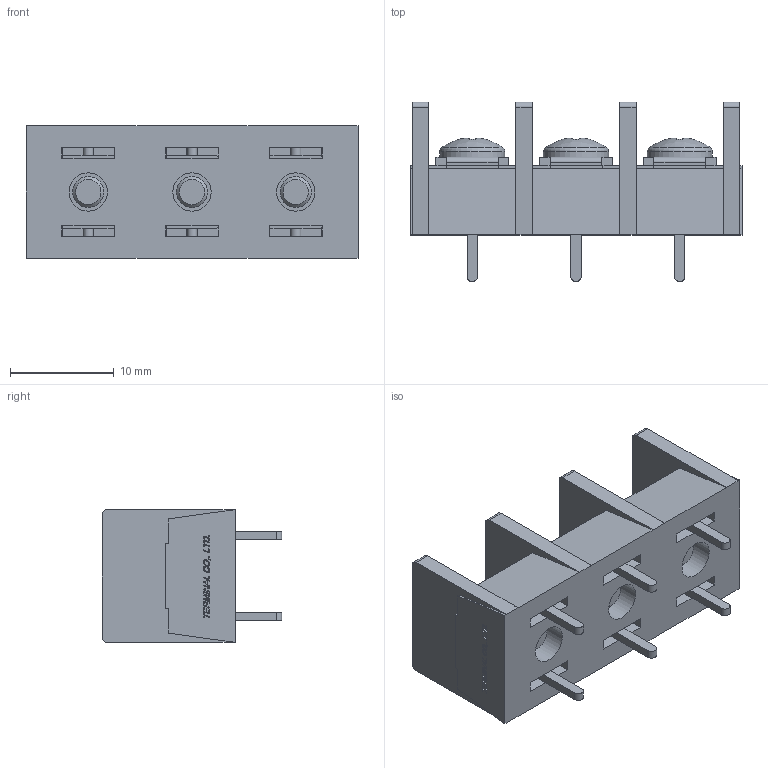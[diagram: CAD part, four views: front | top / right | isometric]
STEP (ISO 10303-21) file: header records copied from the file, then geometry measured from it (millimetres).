
FILE_DESCRIPTION(/* description */ ('Alibre Inc.'),/* implementation_level */ '2;1');
FILE_NAME(/* name */ 'export0',/* time_stamp */ '2015-10-23T18:00:31+09:00',/* author */ (''),/* organization */ (''),/* preprocessor_version */ 'ST-DEVELOPER v14',/* originating_system */ 'Alibre',/* authorisation */ '');
FILE_SCHEMA (('CONFIG_CONTROL_DESIGN'));
Length unit declared in the file: centimetre
Products named in the file (1): ID_1
Bounding box: 32 x 17.3 x 12.8 mm (x, y, z)
Volume: 3045.4 mm3; surface area: 3673.3 mm2
Topology: 1 solids, 52 shells, 1245 faces, 3221 edges, 2132 vertices
Faces by surface type: plane 926, bspline 260, cylinder 35, cone 15, torus 6, sphere 3
Full cylindrical faces by diameter (mm): 3 x6, 3.7 x3, 4.6 x3, 6.3 x3
Entity records: 36255 total; most frequent: CARTESIAN_POINT 8873, ORIENTED_EDGE 6388, DIRECTION 3706, EDGE_CURVE 3194, VECTOR 2473, LINE 2473, VERTEX_POINT 2129, EDGE_LOOP 1363
